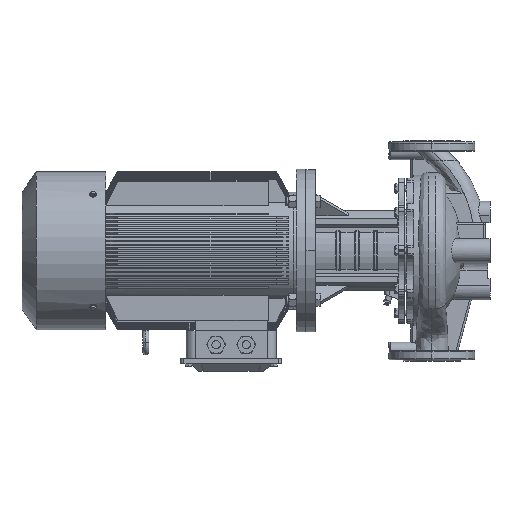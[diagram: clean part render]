
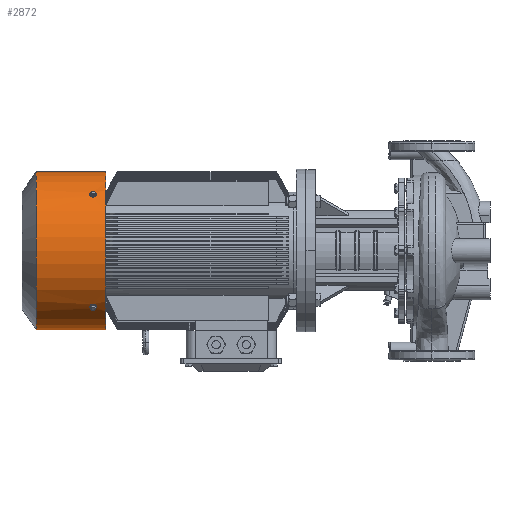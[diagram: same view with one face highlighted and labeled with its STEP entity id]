
A CAD part, left-side view. The second image highlights one B-rep face of the part: STEP entity #2872.
In plain terms, the highlighted cylindrical face has radius 170 mm (diameter 340 mm), a partial arc.
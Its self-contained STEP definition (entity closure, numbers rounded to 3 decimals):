
#486=FACE_BOUND('',#6752,.T.);
#487=FACE_BOUND('',#6753,.T.);
#488=FACE_BOUND('',#6754,.T.);
#2872=ADVANCED_FACE('',(#486,#487,#488),#3745,.T.);
#3745=CYLINDRICAL_SURFACE('',#30574,170.);
#6752=EDGE_LOOP('',(#17753,#17754));
#6753=EDGE_LOOP('',(#17755,#17756));
#6754=EDGE_LOOP('',(#17757,#17758,#17759,#17760));
#8447=CIRCLE('',#30088,170.);
#8675=CIRCLE('',#30573,170.);
#9913=LINE('',#53333,#11464);
#9914=LINE('',#53335,#11465);
#11464=VECTOR('',#36057,1.);
#11465=VECTOR('',#36058,1.);
#17753=ORIENTED_EDGE('',*,*,#26054,.T.);
#17754=ORIENTED_EDGE('',*,*,#25058,.T.);
#17755=ORIENTED_EDGE('',*,*,#26055,.T.);
#17756=ORIENTED_EDGE('',*,*,#24989,.T.);
#17757=ORIENTED_EDGE('',*,*,#26056,.T.);
#17758=ORIENTED_EDGE('',*,*,#25541,.T.);
#17759=ORIENTED_EDGE('',*,*,#25707,.F.);
#17760=ORIENTED_EDGE('',*,*,#25542,.F.);
#21654=VERTEX_POINT('',#51346);
#21655=VERTEX_POINT('',#51348);
#21690=VERTEX_POINT('',#51569);
#21691=VERTEX_POINT('',#51571);
#22168=VERTEX_POINT('',#53328);
#22169=VERTEX_POINT('',#53330);
#22170=VERTEX_POINT('',#53334);
#22171=VERTEX_POINT('',#53336);
#24989=EDGE_CURVE('',#21654,#21655,#27509,.T.);
#25058=EDGE_CURVE('',#21690,#21691,#27536,.T.);
#25541=EDGE_CURVE('',#22168,#22170,#9913,.T.);
#25542=EDGE_CURVE('',#22169,#22171,#9914,.T.);
#25707=EDGE_CURVE('',#22171,#22170,#8447,.T.);
#26054=EDGE_CURVE('',#21691,#21690,#27845,.T.);
#26055=EDGE_CURVE('',#21655,#21654,#27846,.T.);
#26056=EDGE_CURVE('',#22169,#22168,#8675,.T.);
#27509=B_SPLINE_CURVE_WITH_KNOTS('',3,(#51349,#51350,#51351,#51352,#51353,
#51354,#51355,#51356,#51357,#51358),.UNSPECIFIED.,.F.,.F.,(4,2,2,2,4),(0.,
0.25,0.5,0.75,1.),.UNSPECIFIED.);
#27536=B_SPLINE_CURVE_WITH_KNOTS('',3,(#51572,#51573,#51574,#51575,#51576,
#51577,#51578,#51579,#51580,#51581),.UNSPECIFIED.,.F.,.F.,(4,2,2,2,4),(0.,
0.25,0.5,0.75,1.),.UNSPECIFIED.);
#27845=B_SPLINE_CURVE_WITH_KNOTS('',3,(#54555,#54556,#54557,#54558,#54559,
#54560,#54561,#54562,#54563,#54564),.UNSPECIFIED.,.F.,.F.,(4,2,2,2,4),(0.,
0.25,0.5,0.75,1.),.UNSPECIFIED.);
#27846=B_SPLINE_CURVE_WITH_KNOTS('',3,(#54565,#54566,#54567,#54568,#54569,
#54570,#54571,#54572,#54573,#54574),.UNSPECIFIED.,.F.,.F.,(4,2,2,2,4),(0.,
0.25,0.5,0.75,1.),.UNSPECIFIED.);
#30088=AXIS2_PLACEMENT_3D('',#53569,#36385,#36386);
#30573=AXIS2_PLACEMENT_3D('',#54575,#37388,#37389);
#30574=AXIS2_PLACEMENT_3D('',#54576,#37390,#37391);
#36057=DIRECTION('',(0.,-1.,0.));
#36058=DIRECTION('',(0.,-1.,0.));
#36385=DIRECTION('',(0.,-1.,0.));
#36386=DIRECTION('',(0.,0.,1.));
#37388=DIRECTION('',(0.,-1.,0.));
#37389=DIRECTION('',(0.,0.,1.));
#37390=DIRECTION('',(0.,-1.,0.));
#37391=DIRECTION('',(0.,0.,-1.));
#51346=CARTESIAN_POINT('',(-124.92,729.,115.304));
#51348=CARTESIAN_POINT('',(-115.304,729.,124.92));
#51349=CARTESIAN_POINT('',(-124.92,729.,115.304));
#51350=CARTESIAN_POINT('',(-124.92,730.797,115.304));
#51351=CARTESIAN_POINT('',(-124.422,732.554,115.848));
#51352=CARTESIAN_POINT('',(-122.698,735.063,117.672));
#51353=CARTESIAN_POINT('',(-121.466,735.799,118.951));
#51354=CARTESIAN_POINT('',(-118.957,735.801,121.459));
#51355=CARTESIAN_POINT('',(-117.686,735.08,122.685));
#51356=CARTESIAN_POINT('',(-115.839,732.543,124.43));
#51357=CARTESIAN_POINT('',(-115.304,730.797,124.92));
#51358=CARTESIAN_POINT('',(-115.304,729.,124.92));
#51569=CARTESIAN_POINT('',(-115.304,729.,-124.92));
#51571=CARTESIAN_POINT('',(-124.92,729.,-115.304));
#51572=CARTESIAN_POINT('',(-115.304,729.,-124.92));
#51573=CARTESIAN_POINT('',(-115.304,730.797,-124.92));
#51574=CARTESIAN_POINT('',(-115.848,732.554,-124.422));
#51575=CARTESIAN_POINT('',(-117.672,735.063,-122.698));
#51576=CARTESIAN_POINT('',(-118.951,735.799,-121.466));
#51577=CARTESIAN_POINT('',(-121.459,735.801,-118.957));
#51578=CARTESIAN_POINT('',(-122.685,735.08,-117.686));
#51579=CARTESIAN_POINT('',(-124.43,732.543,-115.839));
#51580=CARTESIAN_POINT('',(-124.92,730.797,-115.304));
#51581=CARTESIAN_POINT('',(-124.92,729.,-115.304));
#53328=CARTESIAN_POINT('',(0.,851.051,-170.));
#53330=CARTESIAN_POINT('',(0.,851.051,170.));
#53333=CARTESIAN_POINT('',(0.,162.,-170.));
#53334=CARTESIAN_POINT('',(0.,702.,-170.));
#53335=CARTESIAN_POINT('',(0.,162.,170.));
#53336=CARTESIAN_POINT('',(0.,702.,170.));
#53569=CARTESIAN_POINT('',(0.,702.,0.));
#54555=CARTESIAN_POINT('',(-124.92,729.,-115.304));
#54556=CARTESIAN_POINT('',(-124.92,727.203,-115.304));
#54557=CARTESIAN_POINT('',(-124.422,725.446,-115.848));
#54558=CARTESIAN_POINT('',(-122.698,722.937,-117.672));
#54559=CARTESIAN_POINT('',(-121.466,722.201,-118.951));
#54560=CARTESIAN_POINT('',(-118.957,722.199,-121.459));
#54561=CARTESIAN_POINT('',(-117.686,722.92,-122.685));
#54562=CARTESIAN_POINT('',(-115.839,725.457,-124.43));
#54563=CARTESIAN_POINT('',(-115.304,727.203,-124.92));
#54564=CARTESIAN_POINT('',(-115.304,729.,-124.92));
#54565=CARTESIAN_POINT('',(-115.304,729.,124.92));
#54566=CARTESIAN_POINT('',(-115.304,727.203,124.92));
#54567=CARTESIAN_POINT('',(-115.848,725.446,124.422));
#54568=CARTESIAN_POINT('',(-117.672,722.937,122.698));
#54569=CARTESIAN_POINT('',(-118.951,722.201,121.466));
#54570=CARTESIAN_POINT('',(-121.459,722.199,118.957));
#54571=CARTESIAN_POINT('',(-122.685,722.92,117.686));
#54572=CARTESIAN_POINT('',(-124.43,725.457,115.839));
#54573=CARTESIAN_POINT('',(-124.92,727.203,115.304));
#54574=CARTESIAN_POINT('',(-124.92,729.,115.304));
#54575=CARTESIAN_POINT('',(0.,851.051,0.));
#54576=CARTESIAN_POINT('',(0.,162.,0.));
